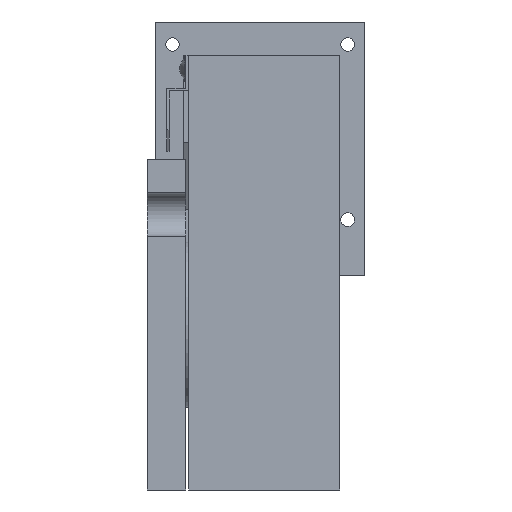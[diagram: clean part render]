
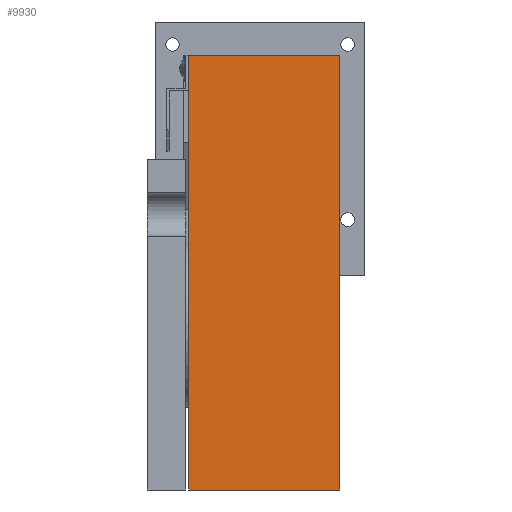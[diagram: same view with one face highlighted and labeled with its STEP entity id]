
A CAD part, left-side view. The second image highlights one B-rep face of the part: STEP entity #9930.
In plain terms, the highlighted planar face has unit normal (-1, 0, 0).
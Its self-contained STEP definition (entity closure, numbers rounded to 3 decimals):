
#104 = ORIENTED_EDGE ( 'NONE', *, *, #10557, .T. ) ;
#396 = VECTOR ( 'NONE', #4897, 1000. ) ;
#678 = CARTESIAN_POINT ( 'NONE',  ( -30., 27.5, -30. ) ) ;
#1402 = ORIENTED_EDGE ( 'NONE', *, *, #4929, .F. ) ;
#1420 = ORIENTED_EDGE ( 'NONE', *, *, #5243, .F. ) ;
#1944 = EDGE_CURVE ( 'NONE', #4663, #4529, #8927, .T. ) ;
#2674 = LINE ( 'NONE', #7575, #8697 ) ;
#3282 = VECTOR ( 'NONE', #10854, 1000. ) ;
#4529 = VERTEX_POINT ( 'NONE', #9924 ) ;
#4616 = CARTESIAN_POINT ( 'NONE',  ( -30., 0., -30. ) ) ;
#4663 = VERTEX_POINT ( 'NONE', #10583 ) ;
#4897 = DIRECTION ( 'NONE',  ( 0., 0., -1. ) ) ;
#4929 = EDGE_CURVE ( 'NONE', #4663, #8383, #2674, .T. ) ;
#5243 = EDGE_CURVE ( 'NONE', #8383, #6642, #10959, .T. ) ;
#5319 = DIRECTION ( 'NONE',  ( 0., 1., 0. ) ) ;
#6384 = DIRECTION ( 'NONE',  ( 0., 0., 1. ) ) ;
#6642 = VERTEX_POINT ( 'NONE', #10598 ) ;
#6758 = FACE_OUTER_BOUND ( 'NONE', #10658, .T. ) ;
#6840 = ORIENTED_EDGE ( 'NONE', *, *, #1944, .T. ) ;
#7202 = PLANE ( 'NONE',  #8563 ) ;
#7454 = CARTESIAN_POINT ( 'NONE',  ( -30., 0., 49. ) ) ;
#7575 = CARTESIAN_POINT ( 'NONE',  ( -30., 0., -30. ) ) ;
#8075 = DIRECTION ( 'NONE',  ( 1., 0., 0. ) ) ;
#8383 = VERTEX_POINT ( 'NONE', #8982 ) ;
#8563 = AXIS2_PLACEMENT_3D ( 'NONE', #10596, #8075, #6384 ) ;
#8697 = VECTOR ( 'NONE', #10222, 1000. ) ;
#8927 = LINE ( 'NONE', #7454, #3282 ) ;
#8982 = CARTESIAN_POINT ( 'NONE',  ( -30., 0., -30. ) ) ;
#9218 = VECTOR ( 'NONE', #5319, 1000. ) ;
#9639 = LINE ( 'NONE', #678, #396 ) ;
#9924 = CARTESIAN_POINT ( 'NONE',  ( -30., 27.5, 49. ) ) ;
#9930 = ADVANCED_FACE ( 'NONE', ( #6758 ), #7202, .F. ) ;
#10222 = DIRECTION ( 'NONE',  ( 0., 0., -1. ) ) ;
#10557 = EDGE_CURVE ( 'NONE', #4529, #6642, #9639, .T. ) ;
#10583 = CARTESIAN_POINT ( 'NONE',  ( -30., 0., 49. ) ) ;
#10596 = CARTESIAN_POINT ( 'NONE',  ( -30., 0., -30. ) ) ;
#10598 = CARTESIAN_POINT ( 'NONE',  ( -30., 27.5, -30. ) ) ;
#10658 = EDGE_LOOP ( 'NONE', ( #104, #1420, #1402, #6840 ) ) ;
#10854 = DIRECTION ( 'NONE',  ( 0., 1., 0. ) ) ;
#10959 = LINE ( 'NONE', #4616, #9218 ) ;
